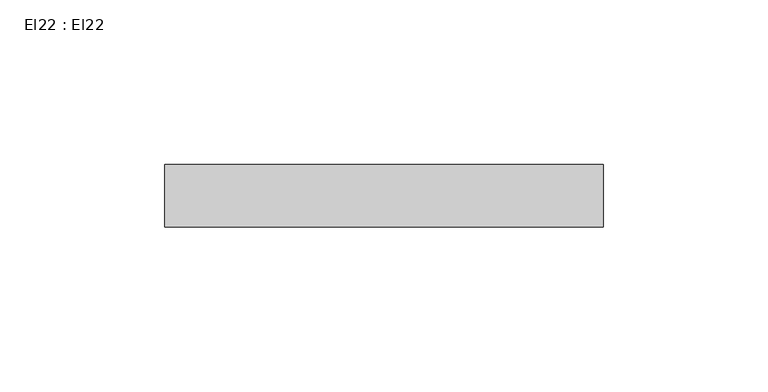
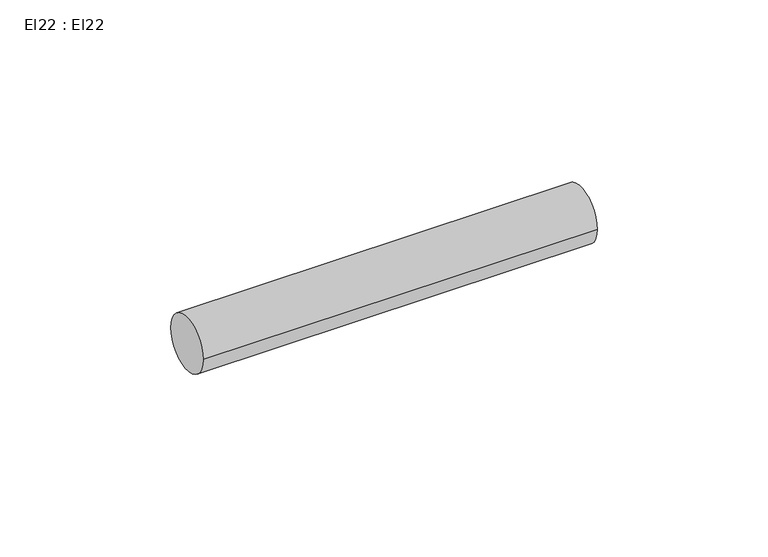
"""IFC4 building model written with IfcOpenShell, lengths in millimetres: cable carrier segment geometry, El22 : El22."""

from ifc_helpers import new_model, si_unit, point, frame, frame_2d, origin, place, context, project, spatial, circle_curve, trimmed, segment, composite_curve, outline, extrude, source, transform, mapped, element, save


def el22_el22_78fa66c2(model_context):
    return source(origin(), model_context, "Body", "SweptSolid", [
        extrude(outline(composite_curve([segment(trimmed(circle_curve(frame_2d((15372.1, 1200.0)), 9.5), [point((15362.6, 1200.0))], [point((15381.6, 1200.0))], False, "CARTESIAN"), True, "CONTINUOUS"), segment(trimmed(circle_curve(frame_2d((15372.1, 1200.0)), 9.5), [point((15381.6, 1200.0))], [point((15362.6, 1200.0))], False, "CARTESIAN"), True, "CONTINUOUS")], self_intersect=False)), frame((2718.6683, 0.0, 0.0), z_axis=(1.0, 0.0, 0.0), x_axis=(0.0, 1.0, 0.0)), (0.0, 0.0, 1.0), 133.063),
    ])


if __name__ == "__main__":
    model = new_model("IFC4")
    model_context = context("Model", 3, world=origin())
    ifc_project = project(units=[si_unit("LENGTHUNIT", "METRE", prefix="MILLI")], contexts=[model_context])
    site = spatial("IfcSite", under=ifc_project)
    building = spatial("IfcBuilding", under=site)
    placement = place(None, origin())
    el22_el22_shape = el22_el22_78fa66c2(model_context)
    element("IfcCableCarrierSegment", 1, ObjectType="El22 : El22", at=placement, inside=building, context=model_context, shape_type="MappedRepresentation", body=[
        mapped(el22_el22_shape, transform((0.0, 0.0, 0.0), x_axis=(1.0, 0.0, 0.0), y_axis=(0.0, 1.0, 0.0), z_axis=(0.0, 0.0, 1.0))),
    ])
    save(model, "model.ifc")
